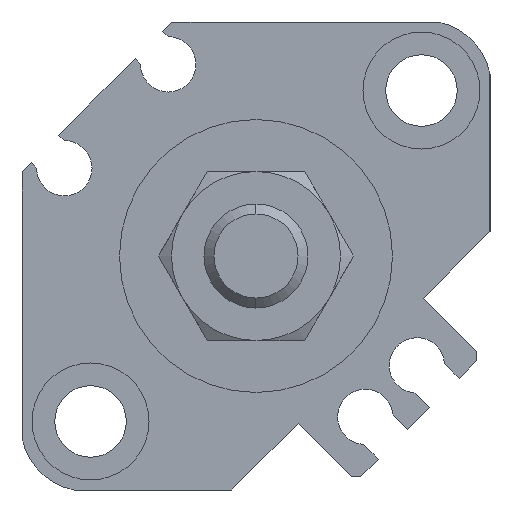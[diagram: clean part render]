
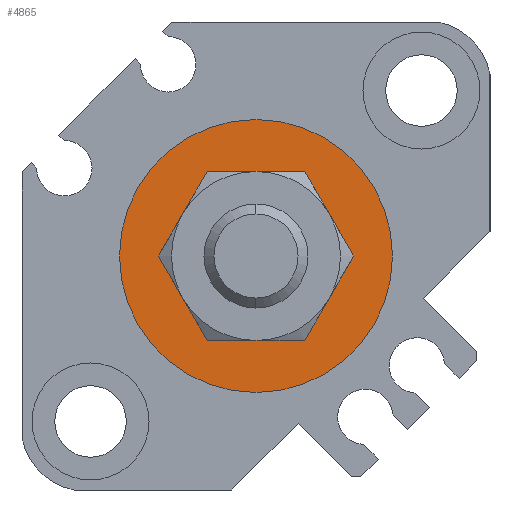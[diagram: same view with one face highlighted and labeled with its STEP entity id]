
A CAD part, left-side view. The second image highlights one B-rep face of the part: STEP entity #4865.
In plain terms, the highlighted planar face has unit normal (-1, 0, 0).
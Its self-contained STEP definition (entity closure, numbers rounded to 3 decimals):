
#86 = CARTESIAN_POINT ( 'NONE',  ( 1.6, 0., 0. ) ) ;
#340 = EDGE_LOOP ( 'NONE', ( #3075, #2593 ) ) ;
#347 = VERTEX_POINT ( 'NONE', #1756 ) ;
#393 = CARTESIAN_POINT ( 'NONE',  ( 1.6, 0., 6.5 ) ) ;
#660 = CARTESIAN_POINT ( 'NONE',  ( 1.6, 0., 0. ) ) ;
#740 = CARTESIAN_POINT ( 'NONE',  ( 1.6, 0., -6.5 ) ) ;
#750 = ORIENTED_EDGE ( 'NONE', *, *, #4733, .T. ) ;
#889 = EDGE_CURVE ( 'NONE', #3671, #2946, #1176, .T. ) ;
#1158 = DIRECTION ( 'NONE',  ( 0., 0., -1. ) ) ;
#1176 = CIRCLE ( 'NONE', #3240, 6.5 ) ;
#1248 = DIRECTION ( 'NONE',  ( 0., 1., 0. ) ) ;
#1756 = CARTESIAN_POINT ( 'NONE',  ( 1.6, 0., 10.5 ) ) ;
#1840 = EDGE_CURVE ( 'NONE', #347, #4513, #5246, .T. ) ;
#2073 = CARTESIAN_POINT ( 'NONE',  ( 1.6, 0., 0. ) ) ;
#2118 = AXIS2_PLACEMENT_3D ( 'NONE', #86, #2595, #3001 ) ;
#2515 = DIRECTION ( 'NONE',  ( 0., 0., -1. ) ) ;
#2593 = ORIENTED_EDGE ( 'NONE', *, *, #3115, .F. ) ;
#2595 = DIRECTION ( 'NONE',  ( 1., 0., 0. ) ) ;
#2670 = ORIENTED_EDGE ( 'NONE', *, *, #889, .T. ) ;
#2762 = DIRECTION ( 'NONE',  ( 0., 0., -1. ) ) ;
#2867 = FACE_OUTER_BOUND ( 'NONE', #340, .T. ) ;
#2891 = PLANE ( 'NONE',  #5359 ) ;
#2924 = DIRECTION ( 'NONE',  ( 1., 0., 0. ) ) ;
#2946 = VERTEX_POINT ( 'NONE', #393 ) ;
#3001 = DIRECTION ( 'NONE',  ( 0., 0., -1. ) ) ;
#3017 = CIRCLE ( 'NONE', #3701, 10.5 ) ;
#3075 = ORIENTED_EDGE ( 'NONE', *, *, #1840, .F. ) ;
#3115 = EDGE_CURVE ( 'NONE', #4513, #347, #3017, .T. ) ;
#3240 = AXIS2_PLACEMENT_3D ( 'NONE', #660, #4437, #2762 ) ;
#3627 = DIRECTION ( 'NONE',  ( 1., 0., 0. ) ) ;
#3671 = VERTEX_POINT ( 'NONE', #740 ) ;
#3701 = AXIS2_PLACEMENT_3D ( 'NONE', #4979, #2924, #2515 ) ;
#3703 = CARTESIAN_POINT ( 'NONE',  ( 1.6, 0., -10.5 ) ) ;
#4107 = FACE_BOUND ( 'NONE', #5184, .T. ) ;
#4230 = AXIS2_PLACEMENT_3D ( 'NONE', #4816, #3627, #1158 ) ;
#4437 = DIRECTION ( 'NONE',  ( 1., 0., 0. ) ) ;
#4513 = VERTEX_POINT ( 'NONE', #3703 ) ;
#4733 = EDGE_CURVE ( 'NONE', #2946, #3671, #4748, .T. ) ;
#4748 = CIRCLE ( 'NONE', #4230, 6.5 ) ;
#4816 = CARTESIAN_POINT ( 'NONE',  ( 1.6, 0., 0. ) ) ;
#4865 = ADVANCED_FACE ( 'NONE', ( #2867, #4107 ), #2891, .F. ) ;
#4969 = DIRECTION ( 'NONE',  ( 1., 0., 0. ) ) ;
#4979 = CARTESIAN_POINT ( 'NONE',  ( 1.6, 0., 0. ) ) ;
#5184 = EDGE_LOOP ( 'NONE', ( #750, #2670 ) ) ;
#5246 = CIRCLE ( 'NONE', #2118, 10.5 ) ;
#5359 = AXIS2_PLACEMENT_3D ( 'NONE', #2073, #4969, #1248 ) ;
